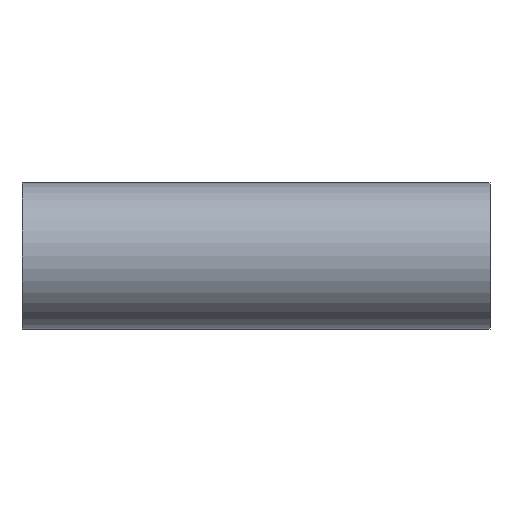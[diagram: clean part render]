
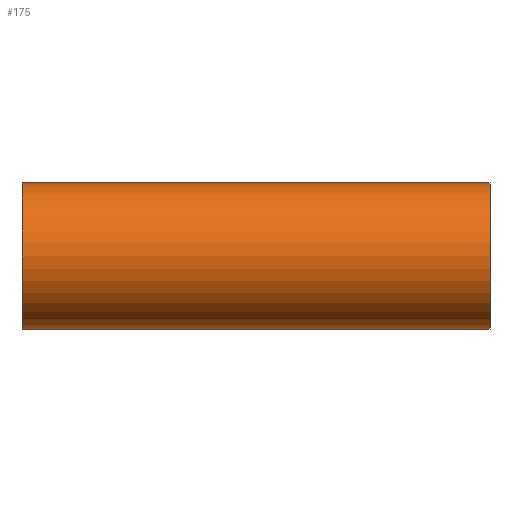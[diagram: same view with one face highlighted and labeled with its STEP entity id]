
A CAD part, front view. The second image highlights one B-rep face of the part: STEP entity #175.
In plain terms, the highlighted cylindrical face has radius 50.8 mm (diameter 101.6 mm), a partial arc.
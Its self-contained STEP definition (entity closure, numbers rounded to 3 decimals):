
#6 = DIRECTION ( 'NONE',  ( 0., 0., -1. ) ) ;
#21 = DIRECTION ( 'NONE',  ( 1., 0., 0. ) ) ;
#23 = DIRECTION ( 'NONE',  ( 1., 0., 0. ) ) ;
#26 = EDGE_CURVE ( 'NONE', #149, #116, #375, .T. ) ;
#42 = DIRECTION ( 'NONE',  ( 1., 0., 0. ) ) ;
#43 = DIRECTION ( 'NONE',  ( 0., 0., -1. ) ) ;
#44 = CARTESIAN_POINT ( 'NONE',  ( -52.4, 0., 50.8 ) ) ;
#59 = DIRECTION ( 'NONE',  ( -1., 0., 0. ) ) ;
#64 = CARTESIAN_POINT ( 'NONE',  ( 0., 0., 50.8 ) ) ;
#70 = CARTESIAN_POINT ( 'NONE',  ( -52.4, 0., -50.8 ) ) ;
#80 = CARTESIAN_POINT ( 'NONE',  ( 273.1, 0., 0. ) ) ;
#88 = ORIENTED_EDGE ( 'NONE', *, *, #26, .F. ) ;
#92 = VECTOR ( 'NONE', #102, 1000. ) ;
#98 = AXIS2_PLACEMENT_3D ( 'NONE', #80, #59, #43 ) ;
#102 = DIRECTION ( 'NONE',  ( 1., 0., 0. ) ) ;
#103 = FACE_OUTER_BOUND ( 'NONE', #319, .T. ) ;
#104 = VECTOR ( 'NONE', #265, 1000. ) ;
#108 = CARTESIAN_POINT ( 'NONE',  ( -52.4, 0., -50.8 ) ) ;
#111 = EDGE_CURVE ( 'NONE', #302, #149, #126, .T. ) ;
#113 = DIRECTION ( 'NONE',  ( 1., 0., 0. ) ) ;
#116 = VERTEX_POINT ( 'NONE', #247 ) ;
#123 = VERTEX_POINT ( 'NONE', #169 ) ;
#126 = LINE ( 'NONE', #387, #92 ) ;
#149 = VERTEX_POINT ( 'NONE', #64 ) ;
#153 = ORIENTED_EDGE ( 'NONE', *, *, #239, .T. ) ;
#169 = CARTESIAN_POINT ( 'NONE',  ( 273.1, 0., -50.8 ) ) ;
#175 = ADVANCED_FACE ( 'NONE', ( #103 ), #330, .T. ) ;
#176 = CARTESIAN_POINT ( 'NONE',  ( -52.4, 0., 50.8 ) ) ;
#179 = ORIENTED_EDGE ( 'NONE', *, *, #111, .F. ) ;
#181 = AXIS2_PLACEMENT_3D ( 'NONE', #357, #113, #448 ) ;
#199 = CIRCLE ( 'NONE', #358, 50.8 ) ;
#203 = ORIENTED_EDGE ( 'NONE', *, *, #392, .T. ) ;
#216 = CARTESIAN_POINT ( 'NONE',  ( 0., 0., -50.8 ) ) ;
#229 = EDGE_CURVE ( 'NONE', #390, #316, #374, .T. ) ;
#239 = EDGE_CURVE ( 'NONE', #316, #123, #339, .T. ) ;
#247 = CARTESIAN_POINT ( 'NONE',  ( 273.1, 0., 50.8 ) ) ;
#264 = ORIENTED_EDGE ( 'NONE', *, *, #326, .T. ) ;
#265 = DIRECTION ( 'NONE',  ( 1., 0., 0. ) ) ;
#268 = ORIENTED_EDGE ( 'NONE', *, *, #229, .T. ) ;
#297 = VECTOR ( 'NONE', #21, 1000. ) ;
#302 = VERTEX_POINT ( 'NONE', #44 ) ;
#316 = VERTEX_POINT ( 'NONE', #216 ) ;
#319 = EDGE_LOOP ( 'NONE', ( #179, #203, #268, #153, #264, #88 ) ) ;
#321 = CARTESIAN_POINT ( 'NONE',  ( -52.4, 0., -50.8 ) ) ;
#326 = EDGE_CURVE ( 'NONE', #123, #116, #367, .T. ) ;
#330 = CYLINDRICAL_SURFACE ( 'NONE', #181, 50.8 ) ;
#339 = LINE ( 'NONE', #70, #297 ) ;
#357 = CARTESIAN_POINT ( 'NONE',  ( -52.4, 0., 0. ) ) ;
#358 = AXIS2_PLACEMENT_3D ( 'NONE', #398, #23, #6 ) ;
#367 = CIRCLE ( 'NONE', #98, 50.8 ) ;
#374 = LINE ( 'NONE', #321, #104 ) ;
#375 = LINE ( 'NONE', #176, #385 ) ;
#385 = VECTOR ( 'NONE', #42, 1000. ) ;
#387 = CARTESIAN_POINT ( 'NONE',  ( -52.4, 0., 50.8 ) ) ;
#390 = VERTEX_POINT ( 'NONE', #108 ) ;
#392 = EDGE_CURVE ( 'NONE', #302, #390, #199, .T. ) ;
#398 = CARTESIAN_POINT ( 'NONE',  ( -52.4, 0., 0. ) ) ;
#448 = DIRECTION ( 'NONE',  ( 0., 0., -1. ) ) ;
